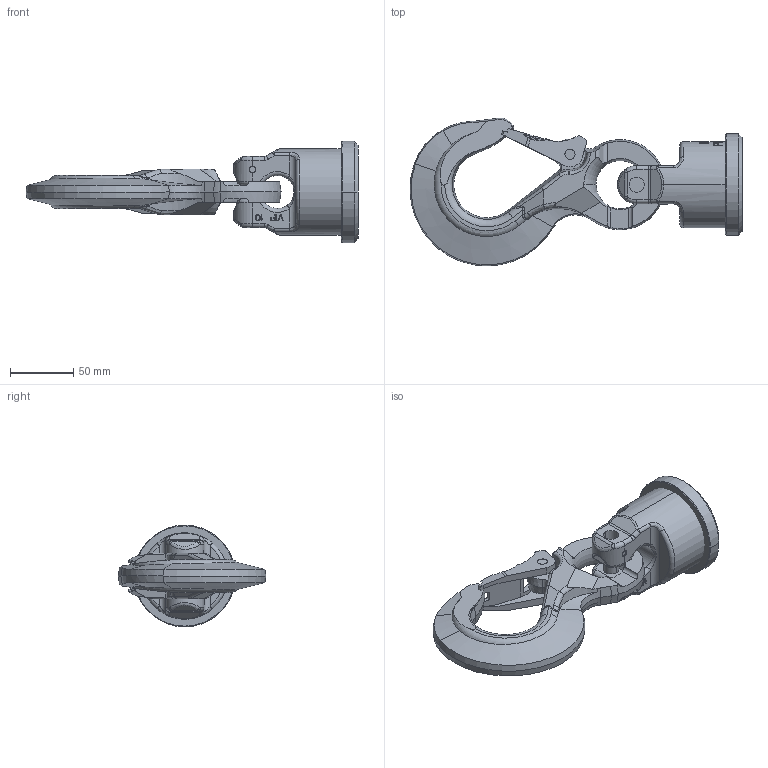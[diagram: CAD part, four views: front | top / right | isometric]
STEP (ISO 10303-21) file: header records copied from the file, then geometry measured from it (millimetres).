
FILE_DESCRIPTION((''),'2;1');
FILE_NAME('001-M31341-P-40_ASM','2018-04-27T',('Anja.Joas'),(''),'PRO/ENGINEER BY PARAMETRIC TECHNOLOGY CORPORATION, 2011490','PRO/ENGINEER BY PARAMETRIC TECHNOLOGY CORPORATION, 2011490','');
FILE_SCHEMA(('CONFIG_CONTROL_DESIGN'));
Length unit declared in the file: millimetre
Products named in the file (6): 001-M31341-P-20; 001-M31341-P-50; 001-M31166-001; 001-M31192-001; 001-M31166-002_ASM; 001-M31341-P-40_ASM
Assembly tree (5 placements, depth 3):
  001-M31341-P-40_ASM
    001-M31341-P-20
    001-M31341-P-50
    001-M31166-002_ASM
      001-M31166-001
      001-M31192-001
Bounding box: 261.5 x 116.5 x 80 mm (x, y, z)
Volume: 478012.5 mm3; surface area: 80763.6 mm2
Topology: 4 solids, 4 shells, 711 faces, 1922 edges, 1226 vertices
Faces by surface type: plane 438, cylinder 119, bspline 46, cone 40, torus 34, sphere 34
Entity records: 25399 total; most frequent: CARTESIAN_POINT 8220, ORIENTED_EDGE 3788, DIRECTION 3228, EDGE_CURVE 1894, VERTEX_POINT 1226, AXIS2_PLACEMENT_3D 1096, VECTOR 1036, LINE 1036
